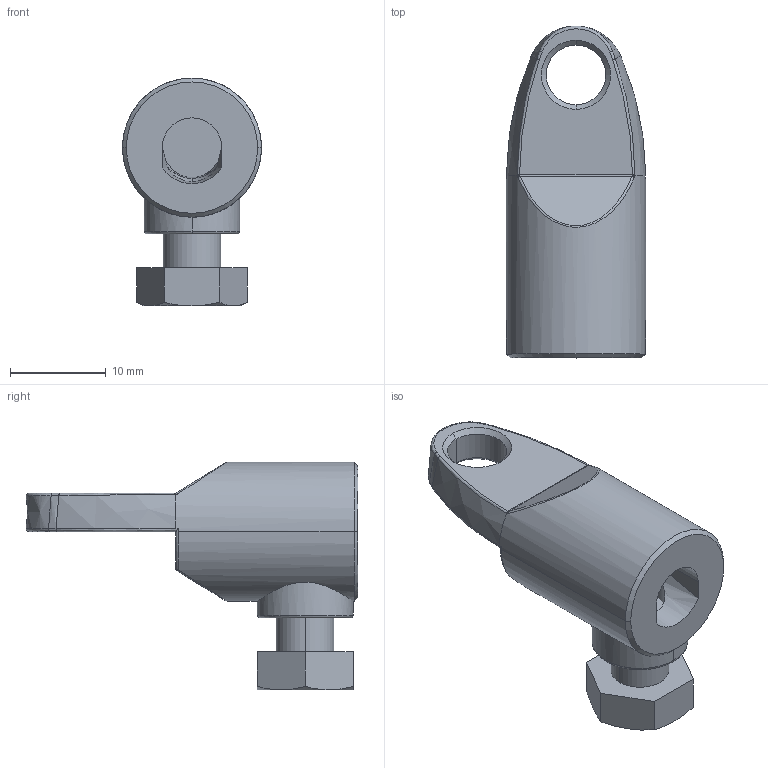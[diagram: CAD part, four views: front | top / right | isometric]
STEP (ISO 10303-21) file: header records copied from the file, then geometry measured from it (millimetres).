
FILE_DESCRIPTION((''),'2;1');
FILE_NAME('RG006-1A_ASM','2016-07-07T',('Administrator'),(''),'PRO/ENGINEER BY PARAMETRIC TECHNOLOGY CORPORATION, 2009060','PRO/ENGINEER BY PARAMETRIC TECHNOLOGY CORPORATION, 2009060','');
FILE_SCHEMA(('CONFIG_CONTROL_DESIGN'));
Length unit declared in the file: millimetre
Products named in the file (3): RG006-1A; SHIZICAOLUODING; RG006-1A_ASM
Assembly tree (2 placements, depth 2):
  RG006-1A_ASM
    RG006-1A
    SHIZICAOLUODING
Bounding box: 14.5 x 34.6 x 23.75 mm (x, y, z)
Volume: 3646 mm3; surface area: 2518 mm2
Topology: 2 solids, 3 shells, 85 faces, 192 edges, 116 vertices
Faces by surface type: plane 27, bspline 22, cone 16, cylinder 14, torus 4, sphere 2
Entity records: 3594 total; most frequent: CARTESIAN_POINT 1755, ORIENTED_EDGE 384, DIRECTION 335, EDGE_CURVE 192, AXIS2_PLACEMENT_3D 135, VERTEX_POINT 116, EDGE_LOOP 92, FACE_OUTER_BOUND 85
